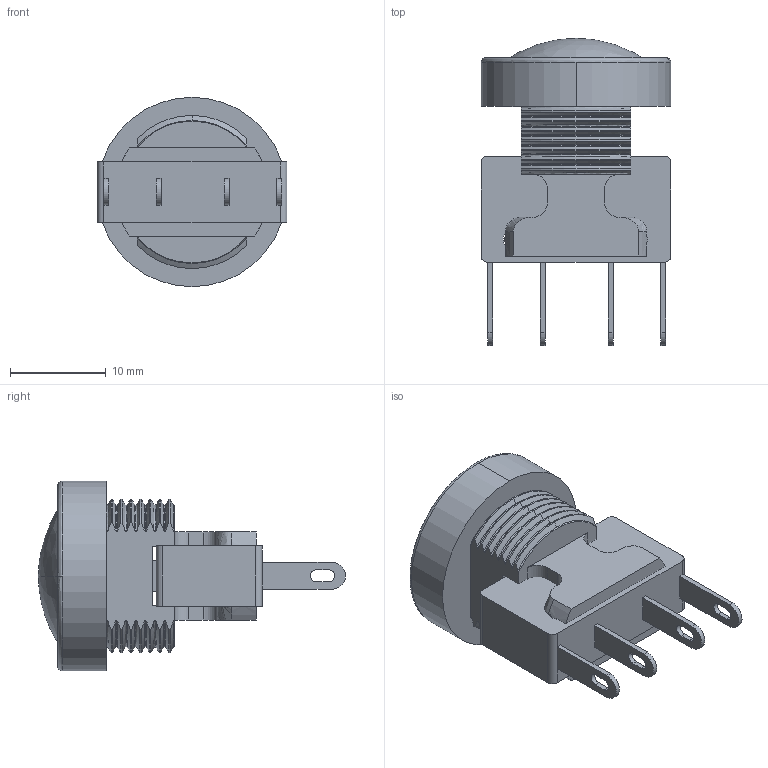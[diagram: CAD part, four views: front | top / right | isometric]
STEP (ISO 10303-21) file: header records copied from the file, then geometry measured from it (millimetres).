
FILE_DESCRIPTION (( 'STEP AP214' ), '1' );
FILE_NAME ('49-5912X.STEP', '2015-07-02T13:47:27', ( 'Admin' ), ( 'Microsoft' ), 'SwSTEP 2.0', 'SolidWorks 2015', '' );
FILE_SCHEMA (( 'AUTOMOTIVE_DESIGN' ));
Length unit declared in the file: millimetre
Products named in the file (2): 49-5912X
Bounding box: 19.85 x 32.1 x 19.8 mm (x, y, z)
Volume: 3924.8 mm3; surface area: 3457 mm2
Topology: 2 solids, 2 shells, 218 faces, 625 edges, 407 vertices
Faces by surface type: cylinder 66, plane 63, bspline 48, cone 41
Entity records: 9194 total; most frequent: CARTESIAN_POINT 3184, ORIENTED_EDGE 1230, DIRECTION 985, EDGE_CURVE 615, VERTEX_POINT 407, AXIS2_PLACEMENT_3D 368, LINE 249, VECTOR 249
